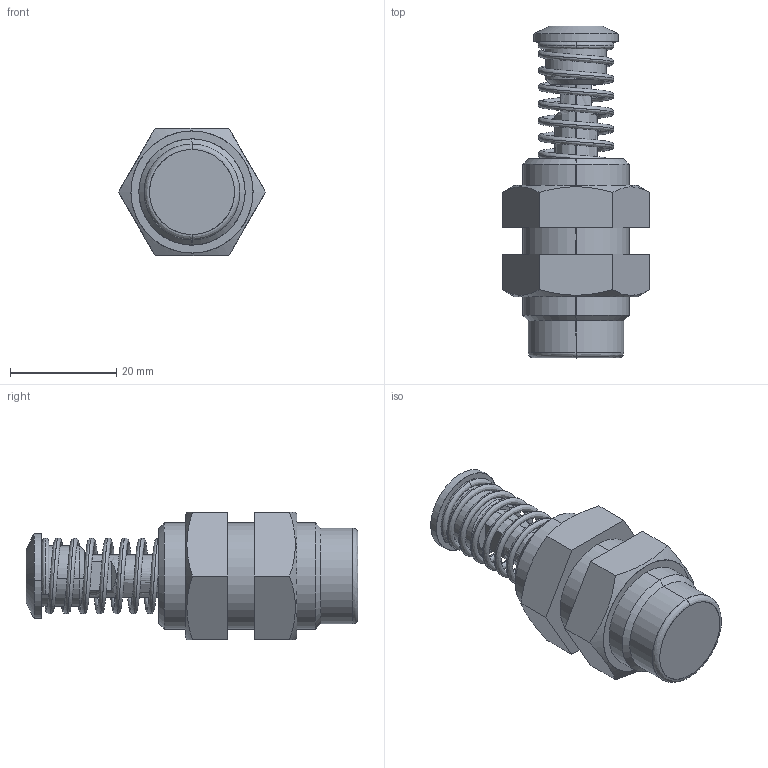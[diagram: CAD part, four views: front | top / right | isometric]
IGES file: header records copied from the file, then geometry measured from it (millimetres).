
Start section: SolidWorks IGES file using analytic representation for surfaces
Global section: file name: Z:\7-3D図面\02.3Dデータ(提出用)\電子カタログ\Ｓ／Ａ\FED\FED-2010M-C.IGS; native system: SolidWorks 2015; preprocessor: SolidWorks 2015; author: flgijutsu02; date: 150615.115458; units: millimetre
Bounding box: 27.71 x 62.5 x 24 mm (x, y, z)
Surface area: 8830.9 mm2 (no closed solid volume)
Topology: 0 solids, 0 shells, 74 faces, 1098 edges, 1098 vertices
Faces by surface type: bspline 46, revolution 28
